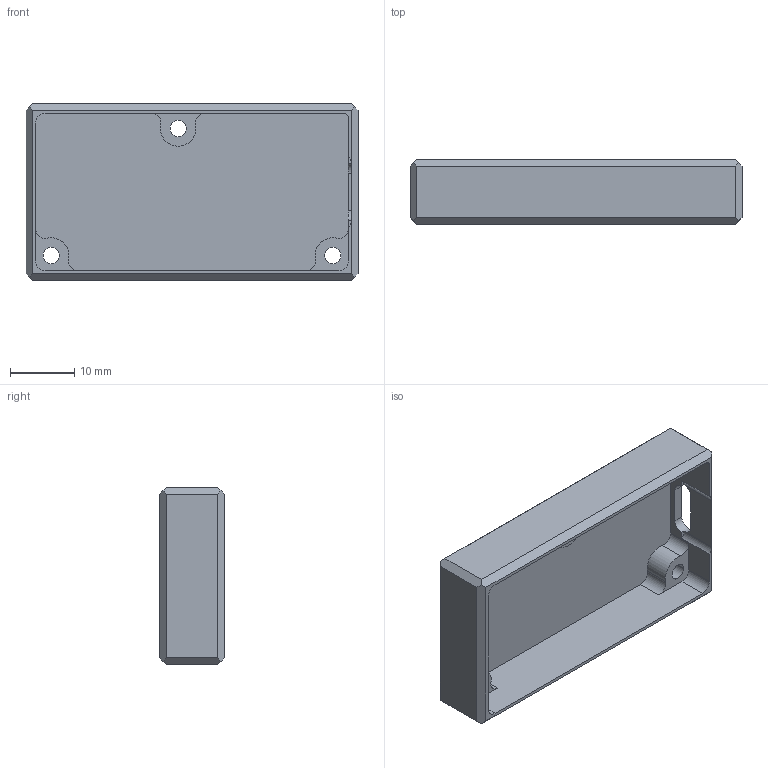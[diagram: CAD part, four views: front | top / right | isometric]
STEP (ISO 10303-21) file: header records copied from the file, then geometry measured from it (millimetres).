
FILE_DESCRIPTION((''),'2;1');
FILE_NAME('COVER','2024-09-11T10:05:29',('5013914'),(''),'CREO PARAMETRIC BY PTC INC, 2022281','CREO PARAMETRIC BY PTC INC, 2022281','');
FILE_SCHEMA(('AUTOMOTIVE_DESIGN { 1 0 10303 214 1 1 1 1 }'));
Length unit declared in the file: millimetre
Products named in the file (1): COVER
Bounding box: 51.5 x 10 x 27.4 mm (x, y, z)
Volume: 4016.3 mm3; surface area: 5520.5 mm2
Topology: 1 solids, 1 shells, 63 faces, 175 edges, 116 vertices
Faces by surface type: plane 34, cylinder 29
Entity records: 2627 total; most frequent: CARTESIAN_POINT 364, DIRECTION 359, ORIENTED_EDGE 350, EDGE_CURVE 175, AXIS2_PLACEMENT_3D 123, COLOUR_RGB 122, VERTEX_POINT 116, VECTOR 113
